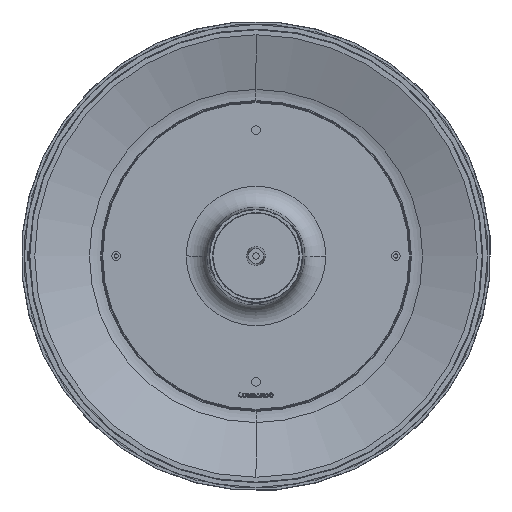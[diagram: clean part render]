
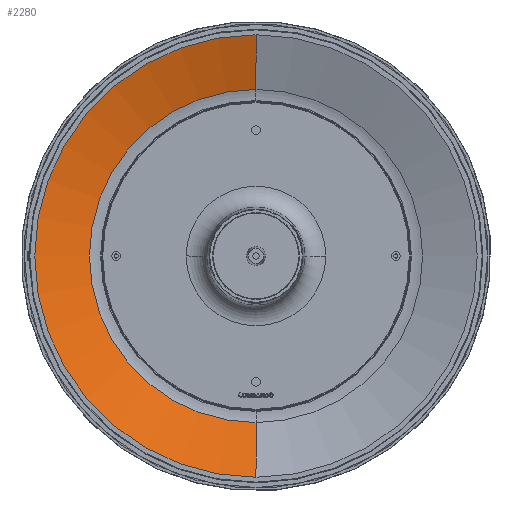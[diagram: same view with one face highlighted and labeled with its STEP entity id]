
A CAD part, front view. The second image highlights one B-rep face of the part: STEP entity #2280.
In plain terms, the highlighted conical face has half-angle 71.365 degrees and reference radius 138.643 mm.
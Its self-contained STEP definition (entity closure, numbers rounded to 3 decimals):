
#2077=CARTESIAN_POINT('',(0.,-23.75,0.));
#2078=DIRECTION('',(0.,-1.,0.));
#2079=DIRECTION('',(0.,0.,1.));
#2080=AXIS2_PLACEMENT_3D('',#2077,#2078,#2079);
#2102=CARTESIAN_POINT('',(0.,-10.561,0.));
#2103=DIRECTION('',(0.,-1.,0.));
#2104=DIRECTION('',(0.,0.,1.));
#2105=AXIS2_PLACEMENT_3D('',#2102,#2103,#2104);
#2112=DIRECTION('',(0.,-0.32,0.948));
#2113=VECTOR('',#2112,41.277);
#2114=CARTESIAN_POINT('',(0.,-10.561,119.087));
#2115=LINE('',#2114,#2113);
#2116=DIRECTION('',(0.,-0.32,-0.948));
#2117=VECTOR('',#2116,41.277);
#2118=CARTESIAN_POINT('',(0.,-10.561,-119.087));
#2119=LINE('',#2118,#2117);
#2190=CARTESIAN_POINT('',(0.,-23.75,158.2));
#2191=CARTESIAN_POINT('',(0.,-23.75,-158.2));
#2192=VERTEX_POINT('',#2190);
#2193=VERTEX_POINT('',#2191);
#2194=CARTESIAN_POINT('',(0.,-10.561,
-119.087));
#2195=CARTESIAN_POINT('',(0.,-10.561,
119.087));
#2196=VERTEX_POINT('',#2194);
#2197=VERTEX_POINT('',#2195);
#2266=CARTESIAN_POINT('',(0.,-17.155,0.));
#2267=DIRECTION('',(0.,-1.,0.));
#2268=DIRECTION('',(0.,0.,-1.));
#2269=AXIS2_PLACEMENT_3D('',#2266,#2267,#2268);
#2270=CONICAL_SURFACE('',#2269,138.643,71.365);
#2272=ORIENTED_EDGE('',*,*,#2271,.T.);
#2274=ORIENTED_EDGE('',*,*,#2273,.T.);
#2275=ORIENTED_EDGE('',*,*,#2243,.F.);
#2277=ORIENTED_EDGE('',*,*,#2276,.F.);
#2278=EDGE_LOOP('',(#2272,#2274,#2275,#2277));
#2279=FACE_OUTER_BOUND('',#2278,.F.);
#2280=ADVANCED_FACE('',(#2279),#2270,.F.);
#2081=CIRCLE('',#2080,158.2);
#2106=CIRCLE('',#2105,119.087);
#2243=EDGE_CURVE('',#2192,#2193,#2081,.T.);
#2271=EDGE_CURVE('',#2197,#2196,#2106,.T.);
#2273=EDGE_CURVE('',#2196,#2193,#2119,.T.);
#2276=EDGE_CURVE('',#2197,#2192,#2115,.T.);
